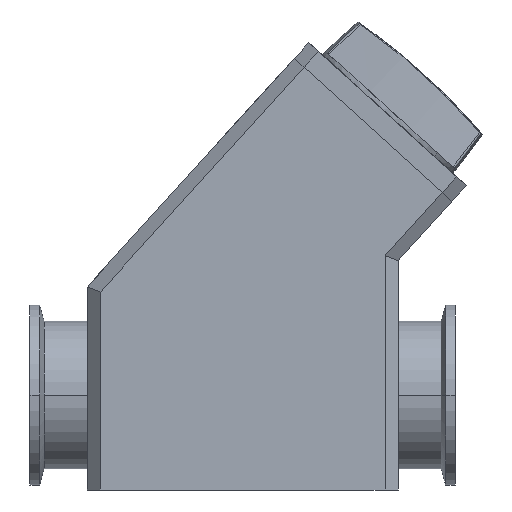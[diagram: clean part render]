
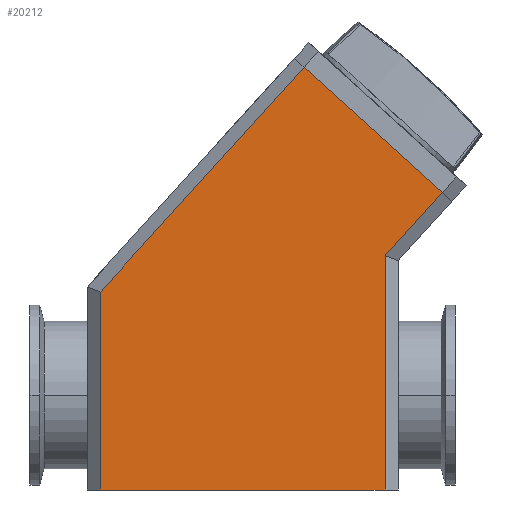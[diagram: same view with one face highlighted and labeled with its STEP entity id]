
A CAD part, front view. The second image highlights one B-rep face of the part: STEP entity #20212.
In plain terms, the highlighted planar face has unit normal (0, -1, 0).
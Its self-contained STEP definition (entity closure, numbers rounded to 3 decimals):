
#463 = DIRECTION ( 'NONE',  ( 0., -1., 0. ) ) ;
#801 = CARTESIAN_POINT ( 'NONE',  ( 112.84, -32.5, 90.836 ) ) ;
#819 = DIRECTION ( 'NONE',  ( 0.672, 0., 0.741 ) ) ;
#1382 = VERTEX_POINT ( 'NONE', #15408 ) ;
#1396 = VECTOR ( 'NONE', #19600, 1000. ) ;
#1979 = CARTESIAN_POINT ( 'NONE',  ( 95.346, -32.5, 70. ) ) ;
#1997 = ORIENTED_EDGE ( 'NONE', *, *, #5587, .T. ) ;
#2015 = EDGE_CURVE ( 'NONE', #19508, #17040, #20887, .T. ) ;
#2402 = FACE_OUTER_BOUND ( 'NONE', #18582, .T. ) ;
#3674 = AXIS2_PLACEMENT_3D ( 'NONE', #15749, #463, #7086 ) ;
#3789 = CARTESIAN_POINT ( 'NONE',  ( 95.346, -32.5, 71.544 ) ) ;
#4266 = LINE ( 'NONE', #12625, #5326 ) ;
#4281 = CARTESIAN_POINT ( 'NONE',  ( 112.84, -32.5, 90.836 ) ) ;
#4866 = EDGE_CURVE ( 'NONE', #11062, #17040, #15440, .T. ) ;
#4977 = CARTESIAN_POINT ( 'NONE',  ( 70.616, -32.5, 129.126 ) ) ;
#5326 = VECTOR ( 'NONE', #6106, 1000. ) ;
#5587 = EDGE_CURVE ( 'NONE', #1382, #15687, #4266, .T. ) ;
#5925 = EDGE_CURVE ( 'NONE', #7899, #19508, #8597, .T. ) ;
#6106 = DIRECTION ( 'NONE',  ( 0., 0., -1. ) ) ;
#6437 = ORIENTED_EDGE ( 'NONE', *, *, #4866, .F. ) ;
#6453 = ORIENTED_EDGE ( 'NONE', *, *, #11698, .F. ) ;
#7086 = DIRECTION ( 'NONE',  ( 1., 0., 0. ) ) ;
#7467 = ORIENTED_EDGE ( 'NONE', *, *, #18051, .T. ) ;
#7899 = VERTEX_POINT ( 'NONE', #17749 ) ;
#8597 = LINE ( 'NONE', #1979, #16793 ) ;
#10140 = LINE ( 'NONE', #11876, #10909 ) ;
#10822 = CARTESIAN_POINT ( 'NONE',  ( 8.346, -32.5, 0. ) ) ;
#10909 = VECTOR ( 'NONE', #19803, 1000. ) ;
#11062 = VERTEX_POINT ( 'NONE', #4977 ) ;
#11698 = EDGE_CURVE ( 'NONE', #7899, #15687, #19708, .T. ) ;
#11876 = CARTESIAN_POINT ( 'NONE',  ( 7.309, -32.5, 59.313 ) ) ;
#12625 = CARTESIAN_POINT ( 'NONE',  ( 8.346, -32.5, 2. ) ) ;
#12808 = VECTOR ( 'NONE', #819, 1000. ) ;
#12977 = CARTESIAN_POINT ( 'NONE',  ( 95.346, -32.5, 0. ) ) ;
#13376 = DIRECTION ( 'NONE',  ( 0., 0., 1. ) ) ;
#13599 = CARTESIAN_POINT ( 'NONE',  ( 67.653, -32.5, 131.813 ) ) ;
#15408 = CARTESIAN_POINT ( 'NONE',  ( 8.346, -32.5, 60.456 ) ) ;
#15440 = LINE ( 'NONE', #13599, #20568 ) ;
#15687 = VERTEX_POINT ( 'NONE', #10822 ) ;
#15749 = CARTESIAN_POINT ( 'NONE',  ( 51.846, -32.5, 66. ) ) ;
#16793 = VECTOR ( 'NONE', #13376, 1000. ) ;
#17040 = VERTEX_POINT ( 'NONE', #801 ) ;
#17525 = ORIENTED_EDGE ( 'NONE', *, *, #2015, .T. ) ;
#17749 = CARTESIAN_POINT ( 'NONE',  ( 95.346, -32.5, 0. ) ) ;
#18051 = EDGE_CURVE ( 'NONE', #11062, #1382, #10140, .T. ) ;
#18582 = EDGE_LOOP ( 'NONE', ( #1997, #6453, #19457, #17525, #6437, #7467 ) ) ;
#19457 = ORIENTED_EDGE ( 'NONE', *, *, #5925, .T. ) ;
#19508 = VERTEX_POINT ( 'NONE', #3789 ) ;
#19600 = DIRECTION ( 'NONE',  ( -1., 0., 0. ) ) ;
#19708 = LINE ( 'NONE', #12977, #1396 ) ;
#19803 = DIRECTION ( 'NONE',  ( -0.672, 0., -0.741 ) ) ;
#20212 = ADVANCED_FACE ( 'NONE', ( #2402 ), #20636, .T. ) ;
#20323 = DIRECTION ( 'NONE',  ( 0.741, 0., -0.672 ) ) ;
#20568 = VECTOR ( 'NONE', #20323, 1000. ) ;
#20636 = PLANE ( 'NONE',  #3674 ) ;
#20887 = LINE ( 'NONE', #4281, #12808 ) ;
